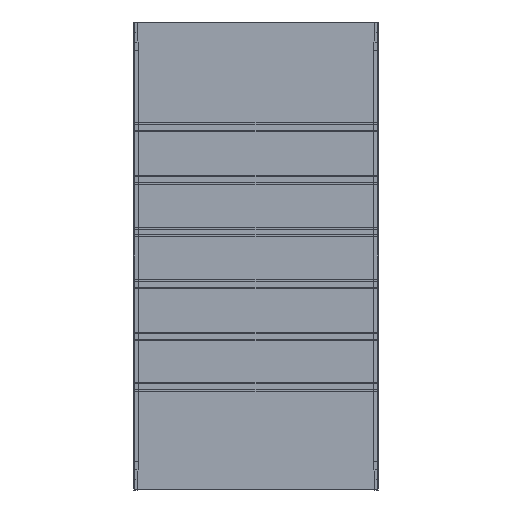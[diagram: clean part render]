
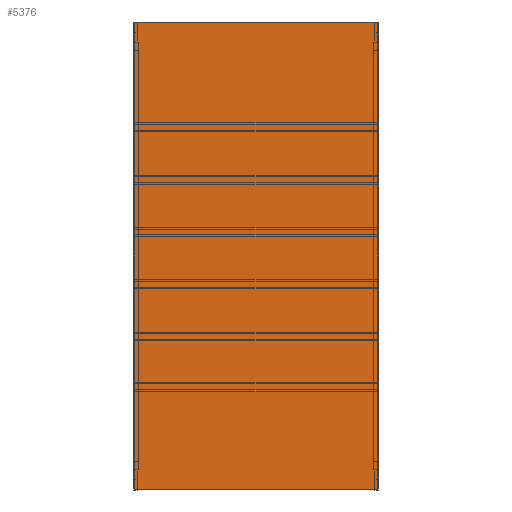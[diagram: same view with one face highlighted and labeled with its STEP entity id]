
A CAD part, front view. The second image highlights one B-rep face of the part: STEP entity #5376.
In plain terms, the highlighted planar face has unit normal (0, -1, 0).
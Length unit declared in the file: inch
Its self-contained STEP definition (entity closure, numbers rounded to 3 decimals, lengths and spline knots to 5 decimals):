
#5261=DIRECTION('',(1.,0.,0.));
#5262=VECTOR('',#5261,41.875);
#5263=CARTESIAN_POINT('',(-20.9375,-0.04,40.146));
#5264=LINE('',#5263,#5262);
#5265=DIRECTION('',(0.,0.,-1.));
#5266=VECTOR('',#5265,80.292);
#5267=CARTESIAN_POINT('',(20.9375,-0.04,40.146));
#5268=LINE('',#5267,#5266);
#5269=DIRECTION('',(-1.,0.,0.));
#5270=VECTOR('',#5269,41.875);
#5271=CARTESIAN_POINT('',(20.9375,-0.04,-40.146));
#5272=LINE('',#5271,#5270);
#5273=DIRECTION('',(0.,0.,1.));
#5274=VECTOR('',#5273,80.292);
#5275=CARTESIAN_POINT('',(-20.9375,-0.04,-40.146));
#5276=LINE('',#5275,#5274);
#5285=CARTESIAN_POINT('',(-20.9375,-0.04,40.146));
#5286=CARTESIAN_POINT('',(20.9375,-0.04,40.146));
#5287=VERTEX_POINT('',#5285);
#5288=VERTEX_POINT('',#5286);
#5289=CARTESIAN_POINT('',(20.9375,-0.04,-40.146));
#5290=VERTEX_POINT('',#5289);
#5291=CARTESIAN_POINT('',(-20.9375,-0.04,-40.146));
#5292=VERTEX_POINT('',#5291);
#5365=CARTESIAN_POINT('',(0.,-0.04,0.));
#5366=DIRECTION('',(0.,1.,0.));
#5367=DIRECTION('',(1.,0.,0.));
#5368=AXIS2_PLACEMENT_3D('',#5365,#5366,#5367);
#5369=PLANE('',#5368);
#5370=ORIENTED_EDGE('',*,*,#5317,.T.);
#5371=ORIENTED_EDGE('',*,*,#5332,.T.);
#5372=ORIENTED_EDGE('',*,*,#5346,.T.);
#5373=ORIENTED_EDGE('',*,*,#5359,.T.);
#5374=EDGE_LOOP('',(#5370,#5371,#5372,#5373));
#5375=FACE_OUTER_BOUND('',#5374,.F.);
#5376=ADVANCED_FACE('',(#5375),#5369,.F.);
#5317=EDGE_CURVE('',#5287,#5288,#5264,.T.);
#5332=EDGE_CURVE('',#5288,#5290,#5268,.T.);
#5346=EDGE_CURVE('',#5290,#5292,#5272,.T.);
#5359=EDGE_CURVE('',#5292,#5287,#5276,.T.);
